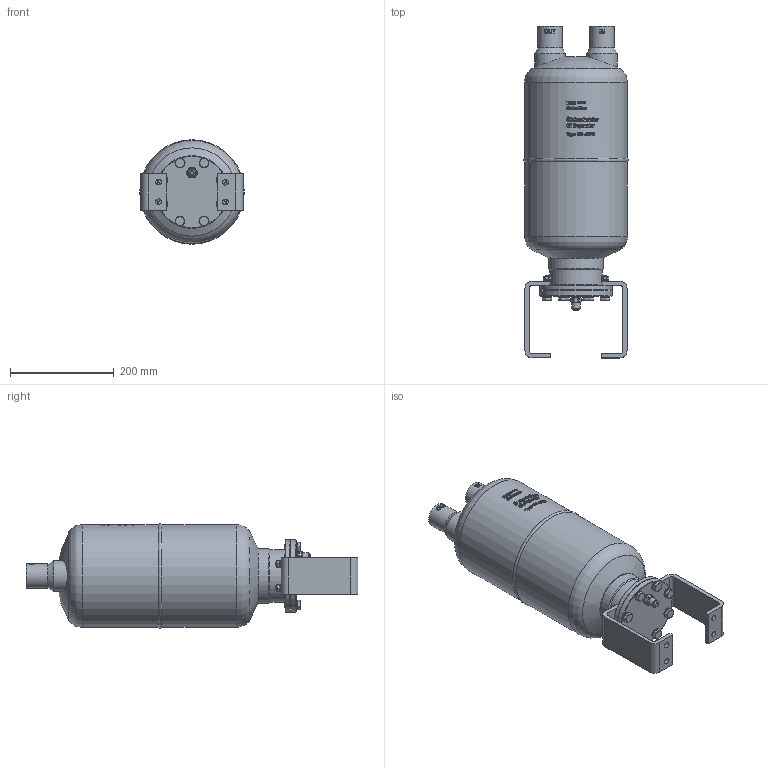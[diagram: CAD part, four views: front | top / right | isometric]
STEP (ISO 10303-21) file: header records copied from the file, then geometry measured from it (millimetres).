
FILE_DESCRIPTION(/* description */ (''),/* implementation_level */ '2;1');
FILE_NAME(/* name */ 'P:\OS\OS-42FH\OS-42FH.stp',/* time_stamp */ '2017-10-04T08:05:59+02:00',/* author */ ('neufeld'),/* organization */ (''),/* preprocessor_version */ 'ST-DEVELOPER v16.1',/* originating_system */ 'Autodesk Inventor 2016',/* authorisation */ '');
FILE_SCHEMA (('AUTOMOTIVE_DESIGN { 1 0 10303 214 3 1 1 }'));
Length unit declared in the file: millimetre
Products named in the file (2): OS-42FH; OS-42FH_1
Assembly tree (1 placements, depth 2):
  OS-42FH_1
    OS-42FH
Bounding box: 201 x 639.36 x 201 mm (x, y, z)
Volume: 12372614.6 mm3; surface area: 437632.9 mm2
Topology: 1 solids, 1 shells, 1386 faces, 3701 edges, 2417 vertices
Faces by surface type: plane 751, bspline 326, cylinder 184, cone 117, torus 6, sphere 2
Full cylindrical faces by diameter (mm): 7.2 x1, 8 x8, 8.5 x4, 9.188 x8, 10 x12, 10.5 x8, 11 x4, 13.5 x1, 15.4 x8, 15.7 x1, 19 x1, 42.2 x2, 47 x2, 59.5 x2, 102 x1, 106 x1, 107.2 x1, 135 x1, 140 x2, 198 x2
Entity records: 48615 total; most frequent: CARTESIAN_POINT 16592, ORIENTED_EDGE 7088, DIRECTION 5857, EDGE_CURVE 3544, VERTEX_POINT 2379, AXIS2_PLACEMENT_3D 2145, EDGE_LOOP 1653, LINE 1567
